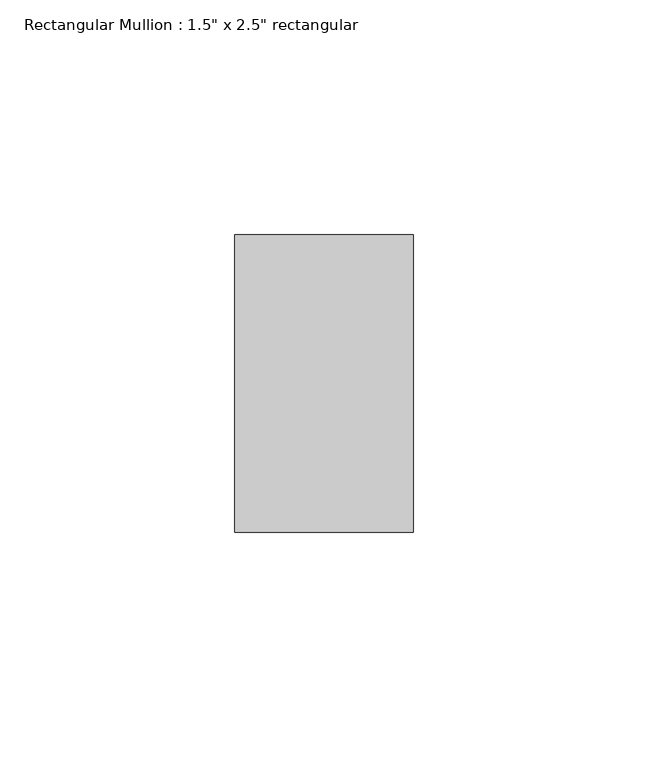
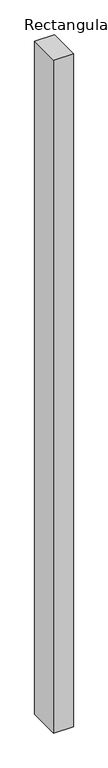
"""IFC4 building model written with IfcOpenShell, lengths in millimetres: member geometry."""

from ifc_helpers import new_model, si_unit, frame, origin, place, context, project, spatial, polyline, outline, extrude, source, transform, mapped, element, save


def member_0b05aa08(model_context):
    return source(origin(), model_context, "Body", "SweptSolid", [
        extrude(outline(polyline([(19.05, 31.75), (19.05, -31.75), (-19.05, -31.75), (-19.05, 31.75), (19.05, 31.75)])), frame((0.0, 0.0, -1376.905446), z_axis=(0.0, 0.0, 1.0), x_axis=(1.0, 0.0, 0.0)), (0.0, 0.0, 1.0), 1376.905446),
    ])


if __name__ == "__main__":
    model = new_model("IFC4")
    model_context = context("Model", 3, world=origin())
    ifc_project = project(units=[si_unit("LENGTHUNIT", "METRE", prefix="MILLI")], contexts=[model_context])
    site = spatial("IfcSite", under=ifc_project)
    building = spatial("IfcBuilding", under=site)
    placement = place(None, origin())
    member_shape = member_0b05aa08(model_context)
    element("IfcMember", 1, ObjectType="Rectangular Mullion : 1.5\" x 2.5\" rectangular", at=placement, inside=building, context=model_context, shape_type="MappedRepresentation", body=[
        mapped(member_shape, transform((0.0, 0.0, 0.0), x_axis=(1.0, 0.0, 0.0), y_axis=(0.0, 1.0, 0.0), z_axis=(0.0, 0.0, 1.0))),
    ])
    save(model, "model.ifc")
